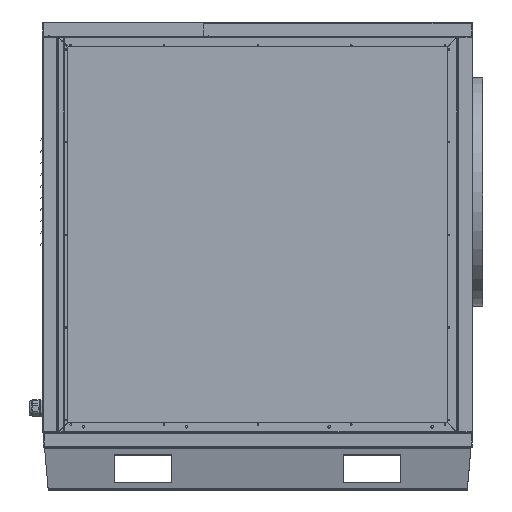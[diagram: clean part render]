
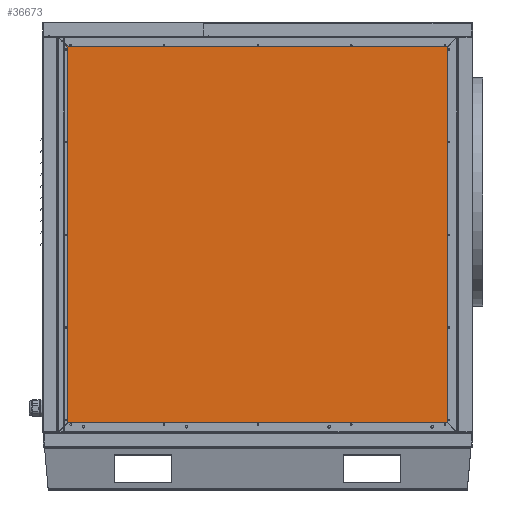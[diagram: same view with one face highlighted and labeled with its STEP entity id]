
A CAD part, front view. The second image highlights one B-rep face of the part: STEP entity #36673.
In plain terms, the highlighted planar face has unit normal (0, -1, 0).
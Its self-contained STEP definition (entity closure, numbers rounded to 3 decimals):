
#2869=FACE_OUTER_BOUND('',#5043,.T.);
#5043=EDGE_LOOP('',(#25111,#25112,#25113,#25114,#25115,#25116,#25117,#25118,
#25119,#25120,#25121,#25122,#25123,#25124,#25125,#25126));
#7733=LINE('',#53157,#11732);
#7750=LINE('',#53200,#11749);
#7761=LINE('',#53223,#11760);
#7876=LINE('',#53510,#11875);
#7892=LINE('',#53552,#11891);
#7901=LINE('',#53573,#11900);
#7932=LINE('',#53693,#11931);
#7952=LINE('',#53738,#11951);
#7956=LINE('',#53750,#11955);
#7959=LINE('',#53762,#11958);
#7960=LINE('',#53764,#11959);
#7961=LINE('',#53766,#11960);
#7962=LINE('',#53768,#11961);
#7963=LINE('',#53770,#11962);
#7964=LINE('',#53771,#11963);
#7965=LINE('',#53772,#11964);
#11732=VECTOR('',#42314,10.);
#11749=VECTOR('',#42351,10.);
#11760=VECTOR('',#42380,10.);
#11875=VECTOR('',#42643,10.);
#11891=VECTOR('',#42679,10.);
#11900=VECTOR('',#42706,10.);
#11931=VECTOR('',#42835,10.);
#11951=VECTOR('',#42877,10.);
#11955=VECTOR('',#42893,10.);
#11958=VECTOR('',#42914,10.);
#11959=VECTOR('',#42915,10.);
#11960=VECTOR('',#42916,10.);
#11961=VECTOR('',#42917,10.);
#11962=VECTOR('',#42918,10.);
#11963=VECTOR('',#42919,10.);
#11964=VECTOR('',#42920,1000.);
#15718=VERTEX_POINT('',#53155);
#15719=VERTEX_POINT('',#53156);
#15729=VERTEX_POINT('',#53180);
#15734=VERTEX_POINT('',#53197);
#15835=VERTEX_POINT('',#53508);
#15836=VERTEX_POINT('',#53509);
#15846=VERTEX_POINT('',#53532);
#15851=VERTEX_POINT('',#53549);
#15863=VERTEX_POINT('',#53605);
#15865=VERTEX_POINT('',#53608);
#15895=VERTEX_POINT('',#53692);
#15909=VERTEX_POINT('',#53736);
#15912=VERTEX_POINT('',#53763);
#15913=VERTEX_POINT('',#53765);
#15914=VERTEX_POINT('',#53767);
#15915=VERTEX_POINT('',#53769);
#19131=EDGE_CURVE('',#15718,#15719,#7733,.T.);
#19154=EDGE_CURVE('',#15719,#15734,#7750,.T.);
#19167=EDGE_CURVE('',#15734,#15729,#7761,.T.);
#19304=EDGE_CURVE('',#15835,#15836,#7876,.T.);
#19326=EDGE_CURVE('',#15836,#15851,#7892,.T.);
#19337=EDGE_CURVE('',#15851,#15846,#7901,.T.);
#19391=EDGE_CURVE('',#15895,#15865,#7932,.T.);
#19415=EDGE_CURVE('',#15909,#15895,#7952,.T.);
#19421=EDGE_CURVE('',#15863,#15909,#7956,.T.);
#19424=EDGE_CURVE('',#15729,#15835,#7959,.T.);
#19425=EDGE_CURVE('',#15846,#15912,#7960,.T.);
#19426=EDGE_CURVE('',#15912,#15913,#7961,.T.);
#19427=EDGE_CURVE('',#15913,#15914,#7962,.T.);
#19428=EDGE_CURVE('',#15914,#15915,#7963,.T.);
#19429=EDGE_CURVE('',#15915,#15863,#7964,.T.);
#19430=EDGE_CURVE('',#15718,#15865,#7965,.F.);
#25111=ORIENTED_EDGE('',*,*,#19167,.T.);
#25112=ORIENTED_EDGE('',*,*,#19424,.T.);
#25113=ORIENTED_EDGE('',*,*,#19304,.T.);
#25114=ORIENTED_EDGE('',*,*,#19326,.T.);
#25115=ORIENTED_EDGE('',*,*,#19337,.T.);
#25116=ORIENTED_EDGE('',*,*,#19425,.T.);
#25117=ORIENTED_EDGE('',*,*,#19426,.T.);
#25118=ORIENTED_EDGE('',*,*,#19427,.T.);
#25119=ORIENTED_EDGE('',*,*,#19428,.T.);
#25120=ORIENTED_EDGE('',*,*,#19429,.T.);
#25121=ORIENTED_EDGE('',*,*,#19421,.T.);
#25122=ORIENTED_EDGE('',*,*,#19415,.T.);
#25123=ORIENTED_EDGE('',*,*,#19391,.T.);
#25124=ORIENTED_EDGE('',*,*,#19430,.F.);
#25125=ORIENTED_EDGE('',*,*,#19131,.T.);
#25126=ORIENTED_EDGE('',*,*,#19154,.T.);
#35163=PLANE('',#38934);
#36673=ADVANCED_FACE('',(#2869),#35163,.T.);
#38934=AXIS2_PLACEMENT_3D('',#53761,#42912,#42913);
#42314=DIRECTION('',(-0.707,0.,0.707));
#42351=DIRECTION('',(0.,0.,1.));
#42380=DIRECTION('',(0.707,0.,0.707));
#42643=DIRECTION('',(-0.707,0.,-0.707));
#42679=DIRECTION('',(-1.,0.,0.));
#42706=DIRECTION('',(-0.707,0.,0.707));
#42835=DIRECTION('',(0.707,0.,-0.707));
#42877=DIRECTION('',(1.,0.,0.));
#42893=DIRECTION('',(0.707,0.,0.707));
#42912=DIRECTION('center_axis',(0.,-1.,0.));
#42913=DIRECTION('ref_axis',(1.,0.,0.));
#42914=DIRECTION('',(-1.,0.,0.));
#42915=DIRECTION('',(0.,0.,-1.));
#42916=DIRECTION('',(0.707,0.,-0.707));
#42917=DIRECTION('',(0.,0.,-1.));
#42918=DIRECTION('',(-0.707,0.,-0.707));
#42919=DIRECTION('',(0.,0.,-1.));
#42920=DIRECTION('',(1.,0.,0.));
#53155=CARTESIAN_POINT('',(1396.,-50.9,3.5));
#53156=CARTESIAN_POINT('',(1363.5,-50.9,36.));
#53157=CARTESIAN_POINT('',(1049.7,-50.9,349.8));
#53180=CARTESIAN_POINT('',(1396.,-50.9,1380.5));
#53197=CARTESIAN_POINT('',(1363.5,-50.9,1348.));
#53200=CARTESIAN_POINT('',(1363.5,-50.9,760.85));
#53223=CARTESIAN_POINT('',(773.05,-50.9,757.55));
#53508=CARTESIAN_POINT('',(1394.,-50.9,1380.5));
#53509=CARTESIAN_POINT('',(1362.5,-50.9,1349.));
#53510=CARTESIAN_POINT('',(770.425,-50.9,756.925));
#53532=CARTESIAN_POINT('',(24.,-50.9,1362.5));
#53549=CARTESIAN_POINT('',(37.5,-50.9,1349.));
#53552=CARTESIAN_POINT('',(426.,-50.9,1349.));
#53573=CARTESIAN_POINT('',(704.325,-50.9,682.175));
#53605=CARTESIAN_POINT('',(24.,-50.9,21.5));
#53608=CARTESIAN_POINT('',(1394.,-50.9,3.5));
#53692=CARTESIAN_POINT('',(1362.5,-50.9,35.));
#53693=CARTESIAN_POINT('',(1047.075,-50.9,350.425));
#53736=CARTESIAN_POINT('',(37.5,-50.9,35.));
#53738=CARTESIAN_POINT('',(1123.5,-50.9,35.));
#53750=CARTESIAN_POINT('',(427.675,-50.9,425.175));
#53761=CARTESIAN_POINT('Origin',(849.5,-50.9,138.7));
#53762=CARTESIAN_POINT('',(705.25,-50.9,1380.5));
#53763=CARTESIAN_POINT('',(24.,-50.9,1360.5));
#53764=CARTESIAN_POINT('',(24.,-50.9,835.6));
#53765=CARTESIAN_POINT('',(36.5,-50.9,1348.));
#53766=CARTESIAN_POINT('',(701.7,-50.9,682.8));
#53767=CARTESIAN_POINT('',(36.5,-50.9,36.));
#53768=CARTESIAN_POINT('',(36.5,-50.9,69.85));
#53769=CARTESIAN_POINT('',(24.,-50.9,23.5));
#53770=CARTESIAN_POINT('',(425.05,-50.9,424.55));
#53771=CARTESIAN_POINT('',(24.,-50.9,835.6));
#53772=CARTESIAN_POINT('',(1262.25,-50.9,3.5));
